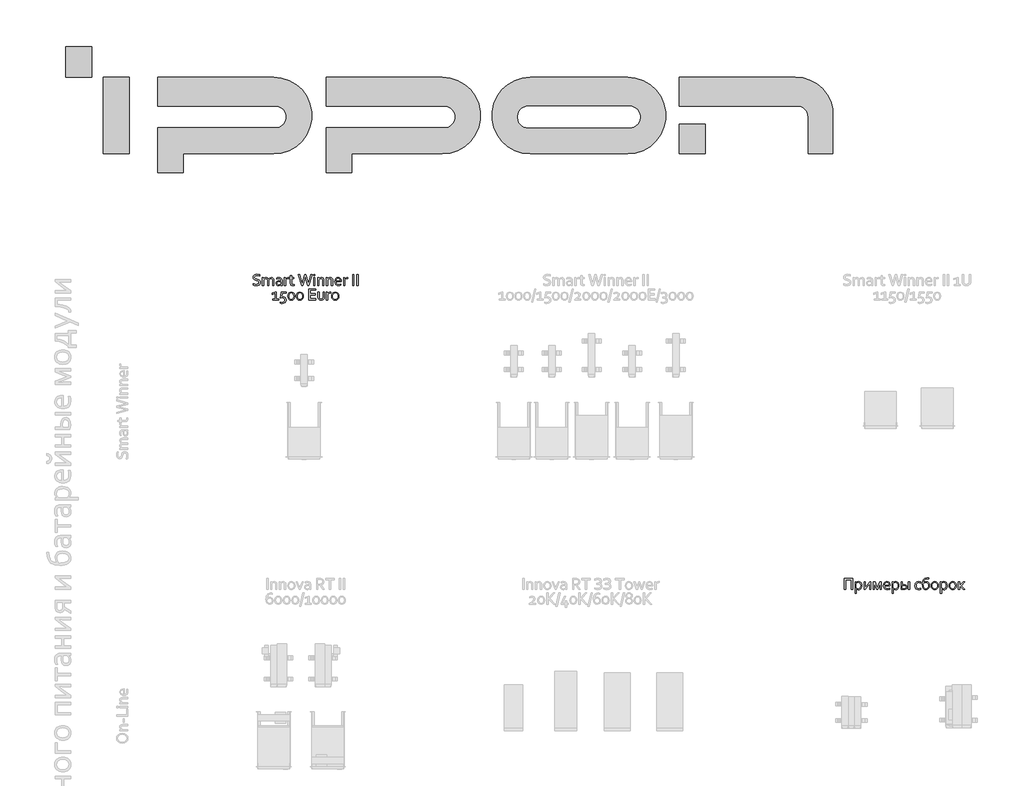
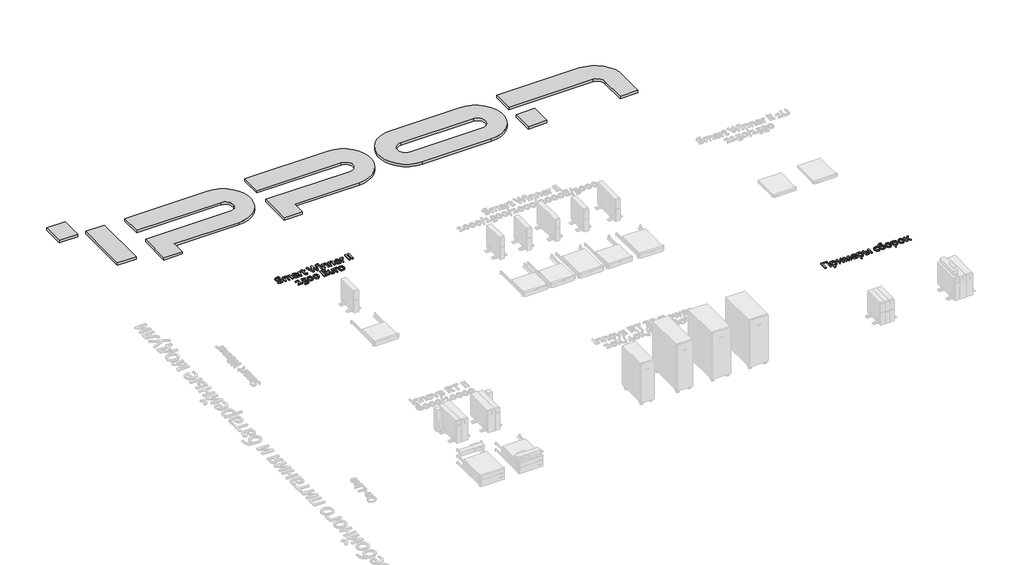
# One storey, part 8 of 10: 3 proxies.
"""IFC4 building model written with IfcOpenShell, lengths in millimetres."""

import ifcopenshell
import ifcopenshell.guid

model = None  # the IFC model being written
_history = None  # IfcOwnerHistory: only IFC2X3 demands one
_inside = {}  # id of a spatial element -> (the spatial element, [elements in it])
_under = {}  # id of a project, library or spatial element -> (it, [spatial elements below it])
_declared = {}  # id of a project -> (the project, [libraries it declares])
_typed = {}  # id of a type object -> (the type object, [elements of that type])
_made_of = {}  # id of a material, layer set ... -> (it, [elements and type objects made of it])


def new_model(schema):
    """Start an empty IFC model of exactly this schema.

    Asked for "IFC4X3", IfcOpenShell would pick the latest addendum, in which some entities
    have other attributes; the version numbers below select the first issue.
    IFC2X3 requires an IfcOwnerHistory on every rooted entity: one is made here for all.
    """
    global model, _history
    if schema == "IFC4X3":
        model = ifcopenshell.file(schema_version=(4, 3, 0, 0))
    else:
        model = ifcopenshell.file(schema=schema)
    _inside.clear()
    _under.clear()
    _declared.clear()
    _typed.clear()
    _made_of.clear()
    _history = None
    if model.schema == "IFC2X3":
        org = make("IfcOrganization", Name="unknown")
        user = make(
            "IfcPersonAndOrganization",
            ThePerson=make("IfcPerson", FamilyName="unknown"),
            TheOrganization=org,
        )
        app = make(
            "IfcApplication",
            ApplicationDeveloper=org,
            Version="unknown",
            ApplicationFullName="unknown",
            ApplicationIdentifier="unknown",
        )
        _history = make(
            "IfcOwnerHistory",
            OwningUser=user,
            OwningApplication=app,
            ChangeAction="ADDED",
            CreationDate=0,
        )
    return model


def make(cls, **values):
    """One entity of the class cls with the attributes given. An attribute that is None is left unset."""
    return model.create_entity(
        cls, **{name: value for name, value in values.items() if value is not None}
    )


def rooted(cls, **values):
    """An entity with a GlobalId (a new one), such as an element, a storey or a relation."""
    return make(cls, GlobalId=ifcopenshell.guid.new(), OwnerHistory=_history, **values)


def si_unit(unit_type, name, prefix=None):
    """IfcSIUnit, for example si_unit("LENGTHUNIT", "METRE", prefix="MILLI")."""
    return make("IfcSIUnit", UnitType=unit_type, Prefix=prefix, Name=name)


def assignment(units):
    """IfcUnitAssignment: the units of a project."""
    return None if units is None else make("IfcUnitAssignment", Units=units)


def point(xyz):
    """IfcCartesianPoint."""
    return None if xyz is None else make("IfcCartesianPoint", Coordinates=xyz)


def direction(xyz):
    """IfcDirection."""
    return None if xyz is None else make("IfcDirection", DirectionRatios=xyz)


def frame(location, z_axis=None, x_axis=None):
    """IfcAxis2Placement3D, a coordinate frame: its origin and axes. An axis left out is left unset."""
    return make(
        "IfcAxis2Placement3D",
        Location=point(location),
        Axis=direction(z_axis),
        RefDirection=direction(x_axis),
    )


def frame_2d(location, x_axis=None):
    """IfcAxis2Placement2D, a coordinate frame in the plane: its origin and x axis."""
    return make(
        "IfcAxis2Placement2D", Location=point(location), RefDirection=direction(x_axis)
    )


def origin():
    """The frame at (0, 0, 0) with its axes left unset."""
    return frame((0.0, 0.0, 0.0))


def origin_with_axes():
    """The frame at (0, 0, 0) with the z axis (0, 0, 1) and the x axis (1, 0, 0) written out."""
    return frame((0.0, 0.0, 0.0), z_axis=(0.0, 0.0, 1.0), x_axis=(1.0, 0.0, 0.0))


def place(relative_to, where):
    """IfcLocalPlacement: puts the frame where relative to a parent placement (None: the world)."""
    return make(
        "IfcLocalPlacement", PlacementRelTo=relative_to, RelativePlacement=where
    )


def context(
    kind, dimensions, precision=None, world=None, true_north=None, identifier=None
):
    """IfcGeometricRepresentationContext, for example the 3D "Model" context."""
    return make(
        "IfcGeometricRepresentationContext",
        ContextIdentifier=identifier,
        ContextType=kind,
        CoordinateSpaceDimension=dimensions,
        Precision=precision,
        WorldCoordinateSystem=world,
        TrueNorth=true_north,
    )


def project(units=None, contexts=None):
    """IfcProject with its units and contexts."""
    return rooted(
        "IfcProject",
        Name="project",
        RepresentationContexts=contexts,
        UnitsInContext=assignment(units),
    )


def spatial(cls, under=None, at=None, **own):
    """A site, building, storey or space (cls), placed at a placement, below another one or the project."""
    s = rooted(cls, ObjectPlacement=at, **own)
    if under is not None:
        _under.setdefault(under.id(), (under, []))[1].append(s)
    return s


def polyline(points):
    """IfcPolyline through the points."""
    return make("IfcPolyline", Points=[point(p) for p in points])


def circle_curve(where, radius):
    """IfcCircle in the frame where."""
    return make("IfcCircle", Position=where, Radius=radius)


def trimmed(basis, trim1, trim2, sense, master):
    """IfcTrimmedCurve: the piece of a basis curve between two trims."""
    return make(
        "IfcTrimmedCurve",
        BasisCurve=basis,
        Trim1=trim1,
        Trim2=trim2,
        SenseAgreement=sense,
        MasterRepresentation=master,
    )


def segment(curve, same_sense, transition):
    """IfcCompositeCurveSegment."""
    return make(
        "IfcCompositeCurveSegment",
        Transition=transition,
        SameSense=same_sense,
        ParentCurve=curve,
    )


def composite_curve(segments, self_intersect=None):
    """IfcCompositeCurve: segments joined end to end."""
    return make("IfcCompositeCurve", Segments=segments, SelfIntersect=self_intersect)


def outline(outer, holes=None, kind="AREA"):
    """IfcArbitraryClosedProfileDef: a profile drawn as a closed curve; with holes, ...WithVoids."""
    if holes is None:
        return make("IfcArbitraryClosedProfileDef", ProfileType=kind, OuterCurve=outer)
    return make(
        "IfcArbitraryProfileDefWithVoids",
        ProfileType=kind,
        OuterCurve=outer,
        InnerCurves=holes,
    )


def extrude(swept, where, along, depth):
    """IfcExtrudedAreaSolid: the profile swept, set in the frame where, extruded along a direction by depth."""
    return make(
        "IfcExtrudedAreaSolid",
        SweptArea=swept,
        Position=where,
        ExtrudedDirection=direction(along),
        Depth=depth,
    )


def shape(context_of_items, identifier, shape_type, items):
    """IfcShapeRepresentation: the items that make up one representation, for example the "Body"."""
    return make(
        "IfcShapeRepresentation",
        ContextOfItems=context_of_items,
        RepresentationIdentifier=identifier,
        RepresentationType=shape_type,
        Items=items,
    )


def source(mapping_origin, context_of_items, identifier, shape_type, items):
    """IfcRepresentationMap: a shape defined once, which mapped items show again and again."""
    return make(
        "IfcRepresentationMap",
        MappingOrigin=mapping_origin,
        MappedRepresentation=shape(context_of_items, identifier, shape_type, items),
    )


def transform(
    local_origin,
    x_axis=None,
    y_axis=None,
    z_axis=None,
    scale=None,
    scale2=None,
    scale3=None,
    uniform=True,
):
    """IfcCartesianTransformationOperator3D, or its non-uniform kind. x_axis, y_axis, z_axis: its Axis1, 2, 3."""
    if uniform:
        return make(
            "IfcCartesianTransformationOperator3D",
            Axis1=direction(x_axis),
            Axis2=direction(y_axis),
            LocalOrigin=point(local_origin),
            Scale=scale,
            Axis3=direction(z_axis),
        )
    return make(
        "IfcCartesianTransformationOperator3DnonUniform",
        Axis1=direction(x_axis),
        Axis2=direction(y_axis),
        LocalOrigin=point(local_origin),
        Scale=scale,
        Axis3=direction(z_axis),
        Scale2=scale2,
        Scale3=scale3,
    )


def mapped(mapping_source, mapping_target):
    """IfcMappedItem: shows the shape of a source again, moved by a transform."""
    return make(
        "IfcMappedItem", MappingSource=mapping_source, MappingTarget=mapping_target
    )


def made_of(thing, what):
    """Note that an element or type object is made of a material, layer set ...; save() writes the relation."""
    if what is not None:
        _made_of.setdefault(what.id(), (what, []))[1].append(thing)
    return thing


def element(
    cls,
    number,
    at=None,
    inside=None,
    cuts=None,
    type_object=None,
    material=None,
    context=None,
    identifier="Body",
    shape_type=None,
    held_by="IfcProductDefinitionShape",
    body=None,
    shapes=None,
    **own,
):
    """One element of the class cls, such as IfcWall. Its Tag is "e" and its number.

    at: its placement. inside: the storey or other place that contains it. cuts: it is an
    opening in that element (IfcRelVoidsElement). A single representation is given by context,
    identifier, shape_type and body (its items); several are given by shapes. held_by: the class
    of the entity that holds the representations. save() writes the other relations.
    """
    e = rooted(cls, Tag="e%d" % number, ObjectPlacement=at, **own)
    if body is not None:
        shapes = [shape(context, identifier, shape_type, body)]
    if shapes is not None:
        e.Representation = make(held_by, Representations=shapes)
    if inside is not None:
        _inside.setdefault(inside.id(), (inside, []))[1].append(e)
    if cuts is not None:
        rooted(
            "IfcRelVoidsElement", RelatingBuildingElement=cuts, RelatedOpeningElement=e
        )
    if type_object is not None:
        _typed.setdefault(type_object.id(), (type_object, []))[1].append(e)
    return made_of(e, material)


def aggregate(whole, parts):
    """IfcRelAggregates: a whole, such as a stair, and the parts it consists of."""
    return rooted("IfcRelAggregates", RelatingObject=whole, RelatedObjects=parts)


def save(model, path):
    """Write the relations noted so far, then the file.

    IfcRelAggregates (storeys below a building ...), IfcRelContainedInSpatialStructure (elements
    in a storey), IfcRelDefinesByType, IfcRelAssociatesMaterial and IfcRelDeclares: one each for
    every whole, place, type object, material and project.
    """
    for whole, parts in _under.values():
        aggregate(whole, parts)
    for where, things in _inside.values():
        rooted(
            "IfcRelContainedInSpatialStructure",
            RelatedElements=things,
            RelatingStructure=where,
        )
    for kind, things in _typed.values():
        rooted("IfcRelDefinesByType", RelatedObjects=things, RelatingType=kind)
    for what, things in _made_of.values():
        rooted("IfcRelAssociatesMaterial", RelatedObjects=things, RelatingMaterial=what)
    for by, libraries in _declared.values():
        rooted("IfcRelDeclares", RelatingContext=by, RelatedDefinitions=libraries)
    model.write(path)


def generic_models_99963152(model_context):
    return source(origin(), model_context, "Body", "SweptSolid", [
        extrude(outline(polyline([(3177.699448, 3681.8024314), (3177.699448, 4101.8024314), (3535.699448, 4101.8024314), (3535.699448, 3681.8024314), (3177.699448, 3681.8024314)])), origin_with_axes(), (0.0, 0.0, 1.0), 50.0),
        extrude(outline(polyline([(11584.1684454, 2635.683186), (11584.1684454, 3035.683186), (11942.1684454, 3035.683186), (11942.1684454, 2635.683186), (11584.1684454, 2635.683186)])), origin_with_axes(), (0.0, 0.0, 1.0), 50.0),
        extrude(outline(polyline([(4048.1413841, 3681.8024314), (4048.1413841, 2631.2925972), (3690.1333405, 2631.2925972), (3690.1333405, 3681.8024314), (4048.1413841, 3681.8024314)])), origin_with_axes(), (0.0, 0.0, 1.0), 50.0),
        extrude(outline(composite_curve([segment(polyline([(4435.8590315, 3285.683186), (4435.8590315, 3681.8024314), (6024.8439739, 3681.8024314)]), True, "CONTINUOUS"), segment(trimmed(circle_curve(frame_2d((6024.8439739, 3156.5475143)), 525.2549171), [point((6024.8439739, 3681.8024314))], [point((6024.8439739, 2631.2925972))], False, "CARTESIAN"), True, "CONTINUOUS"), segment(polyline([(6024.8439739, 2631.2925972), (4786.0289762, 2631.2925972), (4786.0289762, 2374.6349736), (4435.8590315, 2374.6349736), (4435.8590315, 2985.7698761), (6052.2010008, 2985.7698761)]), True, "CONTINUOUS"), segment(trimmed(circle_curve(frame_2d((6052.2010008, 3135.726531)), 149.9566549), [point((6052.2010008, 2985.7698761))], [point((6052.2010008, 3285.683186))], True, "CARTESIAN"), True, "CONTINUOUS"), segment(polyline([(6052.2010008, 3285.683186), (4435.8590315, 3285.683186)]), True, "CONTINUOUS")], self_intersect=False)), origin_with_axes(), (0.0, 0.0, 1.0), 50.0),
        extrude(outline(composite_curve([segment(polyline([(6748.2065684, 3285.683186), (6748.2065684, 3681.8024314), (8337.1915108, 3681.8024314)]), True, "CONTINUOUS"), segment(trimmed(circle_curve(frame_2d((8337.1915108, 3156.5475143)), 525.2549171), [point((8337.1915108, 3681.8024314))], [point((8337.1915108, 2631.2925972))], False, "CARTESIAN"), True, "CONTINUOUS"), segment(polyline([(8337.1915108, 2631.2925972), (7098.3765132, 2631.2925972), (7098.3765132, 2374.6349736), (6748.2065684, 2374.6349736), (6748.2065684, 2985.7698761), (8364.5485377, 2985.7698761)]), True, "CONTINUOUS"), segment(trimmed(circle_curve(frame_2d((8364.5485377, 3135.726531)), 149.9566549), [point((8364.5485377, 2985.7698761))], [point((8364.5485377, 3285.683186))], True, "CARTESIAN"), True, "CONTINUOUS"), segment(polyline([(8364.5485377, 3285.683186), (6748.2065684, 3285.683186)]), True, "CONTINUOUS")], self_intersect=False)), origin_with_axes(), (0.0, 0.0, 1.0), 50.0),
        extrude(outline(composite_curve([segment(polyline([(10875.9689341, 2631.2925972), (9545.3231442, 2631.2925972)]), True, "CONTINUOUS"), segment(trimmed(circle_curve(frame_2d((9545.3231442, 3156.5475143)), 525.2549171), [point((9545.3231442, 2631.2925972))], [point((9545.3231442, 3681.8024314))], False, "CARTESIAN"), True, "CONTINUOUS"), segment(polyline([(9545.3231442, 3681.8024314), (10875.9689341, 3681.8024314)]), True, "CONTINUOUS"), segment(trimmed(circle_curve(frame_2d((10875.9689341, 3156.5475143)), 525.2549171), [point((10875.9689341, 3681.8024314))], [point((10875.9689341, 2631.2925972))], False, "CARTESIAN"), True, "CONTINUOUS")], self_intersect=False), holes=[composite_curve([segment(trimmed(circle_curve(frame_2d((10903.325961, 3135.726531)), 149.9566549), [point((10903.325961, 2985.7698761))], [point((10903.325961, 3285.683186))], True, "CARTESIAN"), True, "CONTINUOUS"), segment(polyline([(10903.325961, 3285.683186), (9517.9661172, 3285.683186)]), True, "CONTINUOUS"), segment(trimmed(circle_curve(frame_2d((9517.9661172, 3135.726531)), 149.9566549), [point((9517.9661172, 3285.683186))], [point((9517.9661172, 2985.7698761))], True, "CARTESIAN"), True, "CONTINUOUS"), segment(polyline([(9517.9661172, 2985.7698761), (10903.325961, 2985.7698761)]), True, "CONTINUOUS")], self_intersect=False)]), origin_with_axes(), (0.0, 0.0, 1.0), 50.0),
        extrude(outline(composite_curve([segment(polyline([(11584.1684454, 3285.683186), (11584.1684454, 3681.8024314), (13173.1533878, 3681.8024314)]), True, "CONTINUOUS"), segment(trimmed(circle_curve(frame_2d((13173.1533878, 3156.5475143)), 525.2549171), [point((13173.1533878, 3681.8024314))], [point((13690.1333405, 3249.4154658))], False, "CARTESIAN"), True, "CONTINUOUS"), segment(polyline([(13690.1333405, 3249.4154658), (13690.1333405, 2631.2925972), (13350.4670696, 2631.2925972), (13350.4670696, 3135.726531)]), True, "CONTINUOUS"), segment(trimmed(circle_curve(frame_2d((13200.5104147, 3135.726531)), 149.9566549), [point((13350.4670696, 3135.726531))], [point((13200.5104147, 3285.683186))], True, "CARTESIAN"), True, "CONTINUOUS"), segment(polyline([(13200.5104147, 3285.683186), (11584.1684454, 3285.683186)]), True, "CONTINUOUS")], self_intersect=False)), origin_with_axes(), (0.0, 0.0, 1.0), 50.0),
    ])


model = new_model("IFC4")

# Units and contexts
model_context = context("Model", 3, world=origin())
ifc_project = project(units=[si_unit("LENGTHUNIT", "METRE", prefix="MILLI")], contexts=[model_context])

# Site, building, storey
site = spatial("IfcSite", under=ifc_project)
building = spatial("IfcBuilding", under=site)
storey = spatial("IfcBuildingStorey", under=building, Name="Этаж 01", Elevation=0.0)

# Proxies
placement = place(None, origin())
element("IfcBuildingElementProxy", 1, Name="150 мм Corbel", ObjectType="150 мм Corbel", at=placement, inside=storey, context=model_context, shape_type="SweptSolid", body=[
    extrude(outline(polyline([(4263.4945132, 936.8855088), (4266.2289116, 925.8822898), (4273.5570992, 918.7072285), (4284.2321904, 914.0696889), (4296.9197988, 910.6790349), (4314.3980731, 905.9321193), (4329.6888288, 898.757058), (4340.5389215, 886.8350812), (4344.695207, 867.9786701), (4340.2107937, 847.722247), (4327.8294379, 833.7002522), (4309.2792794, 825.5626827), (4285.938455, 822.9157851), (4274.0164781, 823.6376662), (4262.3570035, 825.5845579), (4252.3162927, 828.3845818), (4245.2506073, 831.4908583), (4245.2506073, 848.1160004), (4254.3288099, 844.681596), (4264.763274, 842.0346984), (4275.6352419, 840.3284338), (4285.938455, 839.7159286), (4300.922958, 841.050315), (4313.4136897, 845.5128531), (4321.9450126, 854.0223008), (4325.0950395, 867.5411663), (4322.2950156, 878.7193868), (4314.8355769, 886.0038241), (4304.0729849, 890.6851141), (4291.2322502, 894.0976432), (4273.8196014, 898.6476821), (4258.6600969, 905.7133675), (4247.9412553, 917.3509669), (4243.8943457, 935.5292472), (4248.138132, 955.3481665), (4259.6226051, 969.0857839), (4276.1821216, 977.1139775), (4296.0447913, 979.7171247), (4318.4012323, 977.4202301), (4337.3888945, 971.4483041), (4337.3888945, 954.5169094), (4318.1606053, 960.5107106), (4296.9197988, 962.9169812), (4282.1102973, 961.0794655), (4271.6977083, 955.8512958), (4265.5289056, 947.6262256), (4263.4945132, 936.8855088)])), origin_with_axes(), (0.0, 0.0, 1.0), 20.0),
    extrude(outline(polyline([(4459.4961878, 825.715809), (4442.6960443, 825.715809), (4442.6960443, 894.7976492), (4441.1647812, 906.7196261), (4436.7022431, 914.8134452), (4429.7240584, 919.4509848), (4420.6458559, 920.9166224), (4403.4300838, 915.6884527), (4389.4955897, 901.3164549), (4389.4955897, 825.715809), (4372.6954462, 825.715809), (4372.6954462, 932.116718), (4386.126811, 932.116718), (4389.4518394, 917.3290917), (4396.1456466, 924.1979004), (4403.7363364, 929.8198234), (4412.9457901, 933.5823556), (4423.9271339, 934.916742), (4434.7772266, 933.489386), (4443.6148021, 929.2073182), (4455.6899053, 913.6540603), (4472.3806729, 929.2729438), (4493.6652297, 934.916742), (4505.6090818, 933.3417285), (4517.2029308, 927.5666792), (4525.996756, 915.9728301), (4529.4967859, 896.9414175), (4529.4967859, 825.715809), (4512.6966423, 825.715809), (4512.6966423, 894.7976492), (4511.1653793, 906.7196261), (4506.7247163, 914.8134452), (4499.7684069, 919.4509848), (4490.6902043, 920.9166224), (4473.4525571, 915.6884527), (4459.4961878, 901.3164549), (4459.4961878, 825.715809)])), origin_with_axes(), (0.0, 0.0, 1.0), 20.0),
    extrude(outline(polyline([(4625.2226037, 837.4846595), (4619.4256792, 832.1689891), (4612.0099909, 827.4439487), (4602.8224124, 824.1407955), (4592.1910715, 822.9157851), (4578.1690767, 825.1689293), (4567.2096081, 831.7971109), (4560.056422, 842.450327), (4557.4970251, 856.6910736), (4560.3407994, 870.6911932), (4568.3033674, 881.1694078), (4580.6190977, 887.7975894), (4596.5223585, 890.1163592), (4611.7693638, 888.6288465), (4624.2600955, 885.2600677), (4624.6975993, 892.8726328), (4624.1288444, 901.207079), (4622.203828, 907.5727583), (4612.9287487, 917.132215), (4595.6473511, 920.9166224), (4580.4440962, 919.4291096), (4566.2908502, 915.3165745), (4566.2908502, 929.0104415), (4572.6127793, 931.3948369), (4580.2909699, 933.2979781), (4588.8004176, 934.5011134), (4597.7911194, 934.916742), (4612.4256194, 933.489386), (4624.0413437, 929.2073182), (4632.7039177, 922.5736678), (4638.478967, 914.091564), (4640.7977368, 906.1946216), (4641.4977428, 896.7226656), (4641.4977428, 825.715809), (4627.1038698, 825.715809), (4625.2226037, 837.4846595)]), holes=[polyline([(4624.6975993, 872.1349556), (4613.081875, 874.7381028), (4598.3161239, 876.1162396), (4580.662848, 871.3474488), (4575.8885885, 865.2989597), (4574.2971686, 856.6910736), (4575.8940573, 847.9409989), (4580.2690947, 841.750321), (4586.8535259, 838.1190399), (4594.9910955, 836.9159047), (4605.5786859, 838.5565437), (4614.2850103, 842.4722021), (4620.7600656, 847.022241), (4624.6975993, 850.5660213), (4624.6975993, 872.1349556)])]), origin_with_axes(), (0.0, 0.0, 1.0), 20.0),
    extrude(outline(polyline([(4732.8922737, 920.9166224), (4719.4609089, 919.7572375), (4708.3045636, 916.2353324), (4698.8982332, 910.3946575), (4691.8981734, 902.1914624), (4691.8981734, 825.715809), (4675.0980299, 825.715809), (4675.0980299, 932.116718), (4688.0918909, 932.116718), (4691.3294186, 915.1853234), (4697.9794754, 922.9291396), (4706.4451727, 929.2073182), (4716.7702609, 933.4073541), (4728.5609867, 934.916742), (4730.8360061, 934.8729916), (4732.8922737, 934.7417405), (4732.8922737, 920.9166224)])), origin_with_axes(), (0.0, 0.0, 1.0), 20.0),
    extrude(outline(polyline([(4806.4804024, 825.3220556), (4799.6553441, 823.7470422), (4788.6740002, 822.9157851), (4774.1926265, 825.015803), (4764.1519157, 831.0096042), (4758.2456153, 840.4378098), (4756.2987236, 852.75354), (4756.2987236, 918.1165984), (4735.7797983, 918.1165984), (4735.7797983, 932.116718), (4756.2987236, 932.116718), (4756.2987236, 960.1169573), (4773.0988672, 960.1169573), (4773.0988672, 932.116718), (4804.9053889, 932.116718), (4804.9053889, 918.1165984), (4773.0988672, 918.1165984), (4773.0988672, 854.5035549), (4774.1488761, 847.4816199), (4777.4957797, 841.9034473), (4783.380205, 838.2284159), (4792.042779, 836.9159047), (4799.3709666, 837.4846595), (4806.4804024, 838.9284219), (4806.4804024, 825.3220556)])), origin_with_axes(), (0.0, 0.0, 1.0), 20.0),
    extrude(outline(polyline([(4959.2567077, 951.9356374), (4950.5941337, 915.5353264), (4927.1439333, 825.715809), (4908.4187733, 825.715809), (4862.6996327, 976.9171008), (4882.2998002, 976.9171008), (4906.975011, 888.1913428), (4916.9938466, 849.7785146), (4922.2657666, 870.2318143), (4926.8814311, 887.9725909), (4949.5003743, 976.9171008), (4969.1005418, 976.9171008), (4991.1507302, 887.9725909), (5000.3383087, 849.7785146), (5011.0571503, 888.1913428), (5036.3011159, 976.9171008), (5055.9012834, 976.9171008), (5009.4821368, 825.715809), (4990.7569768, 825.715809), (4967.7880306, 915.5353264), (4959.2567077, 951.9356374)])), origin_with_axes(), (0.0, 0.0, 1.0), 20.0),
    extrude(outline(polyline([(5075.5014509, 957.3169334), (5075.5014509, 976.9171008), (5092.3015944, 976.9171008), (5092.3015944, 957.3169334), (5075.5014509, 957.3169334)])), origin_with_axes(), (0.0, 0.0, 1.0), 20.0),
    extrude(outline(polyline([(5075.5014509, 825.715809), (5075.5014509, 932.116718), (5092.3015944, 932.116718), (5092.3015944, 825.715809), (5075.5014509, 825.715809)])), origin_with_axes(), (0.0, 0.0, 1.0), 20.0),
    extrude(outline(polyline([(5145.4145482, 917.3290917), (5152.1302306, 924.1979004), (5159.9834227, 929.8198234), (5169.499129, 933.5823556), (5180.7648502, 934.916742), (5194.3712165, 932.9042248), (5205.3744355, 926.4072943), (5212.7682486, 914.7040693), (5215.502647, 896.9414175), (5215.502647, 825.715809), (5198.7025035, 825.715809), (5198.7025035, 894.7976492), (5197.3571795, 906.7579076), (5193.3212075, 914.8134452), (5186.714901, 919.3908281), (5177.6585737, 920.9166224), (5160.1146738, 915.6884527), (5145.5020489, 901.3164549), (5145.5020489, 825.715809), (5128.7019054, 825.715809), (5128.7019054, 932.116718), (5142.0457694, 932.116718), (5145.4145482, 917.3290917)])), origin_with_axes(), (0.0, 0.0, 1.0), 20.0),
    extrude(outline(polyline([(5265.8155769, 917.3290917), (5272.5312592, 924.1979004), (5280.3844513, 929.8198234), (5289.9001576, 933.5823556), (5301.1658789, 934.916742), (5314.7722451, 932.9042248), (5325.7754641, 926.4072943), (5333.1692773, 914.7040693), (5335.9036757, 896.9414175), (5335.9036757, 825.715809), (5319.1035321, 825.715809), (5319.1035321, 894.7976492), (5317.7582082, 906.7579076), (5313.7222362, 914.8134452), (5307.1159297, 919.3908281), (5298.0596023, 920.9166224), (5280.5157025, 915.6884527), (5265.9030776, 901.3164549), (5265.9030776, 825.715809), (5249.1029341, 825.715809), (5249.1029341, 932.116718), (5262.4467981, 932.116718), (5265.8155769, 917.3290917)])), origin_with_axes(), (0.0, 0.0, 1.0), 20.0),
    extrude(outline(polyline([(5419.2481378, 836.9159047), (5435.0201475, 838.3815422), (5449.2171438, 842.5159525), (5449.2171438, 828.6908344), (5435.0857731, 824.4689233), (5417.0168687, 822.9157851), (5395.5573104, 825.8251849), (5378.5384149, 835.2315153), (5367.7320726, 852.2066603), (5363.9039149, 877.4725012), (5367.8851989, 902.7164669), (5378.4727894, 920.5666194), (5393.6979195, 931.3292113), (5411.6793231, 934.916742), (5428.173214, 931.9854669), (5441.4733277, 922.7541381), (5450.3765287, 906.5008742), (5453.6359316, 882.6350453), (5453.6359316, 880.381901), (5453.5046804, 876.1162396), (5379.7853006, 876.1162396), (5382.869702, 857.9160841), (5391.2916489, 845.7972306), (5403.8042558, 839.0377978), (5419.2481378, 836.9159047)]), holes=[polyline([(5410.9355667, 920.9166224), (5399.4292184, 918.4884766), (5390.1541392, 911.8821702), (5383.7228342, 902.1039616), (5380.7040584, 890.1163592), (5436.7045369, 890.1163592), (5435.0201475, 902.2133376), (5430.0544801, 911.9915461), (5422.0044113, 918.532227), (5410.9355667, 920.9166224)])]), origin_with_axes(), (0.0, 0.0, 1.0), 20.0),
    extrude(outline(polyline([(5542.0991874, 920.9166224), (5528.6678226, 919.7572375), (5517.5114773, 916.2353324), (5508.1051469, 910.3946575), (5501.1050871, 902.1914624), (5501.1050871, 825.715809), (5484.3049436, 825.715809), (5484.3049436, 932.116718), (5497.2988046, 932.116718), (5500.5363323, 915.1853234), (5507.1863891, 922.9291396), (5515.6520864, 929.2073182), (5525.9771746, 933.4073541), (5537.7679004, 934.916742), (5540.0429198, 934.8729916), (5542.0991874, 934.7417405), (5542.0991874, 920.9166224)])), origin_with_axes(), (0.0, 0.0, 1.0), 20.0),
    extrude(outline(polyline([(5607.5059962, 825.715809), (5607.5059962, 976.9171008), (5627.1061637, 976.9171008), (5627.1061637, 825.715809), (5607.5059962, 825.715809)])), origin_with_axes(), (0.0, 0.0, 1.0), 20.0),
    extrude(outline(polyline([(5663.5064747, 825.715809), (5663.5064747, 976.9171008), (5683.1066421, 976.9171008), (5683.1066421, 825.715809), (5663.5064747, 825.715809)])), origin_with_axes(), (0.0, 0.0, 1.0), 20.0),
    extrude(outline(polyline([(4547.6969414, 639.315498), (4547.6969414, 717.7161678), (4507.2278456, 703.7160482), (4507.2278456, 717.7161678), (4549.9719608, 731.7162874), (4564.4970849, 731.7162874), (4564.4970849, 639.315498), (4593.8535857, 639.315498), (4593.8535857, 625.3153784), (4511.9091356, 625.3153784), (4511.9091356, 639.315498), (4547.6969414, 639.315498)])), origin_with_axes(), (0.0, 0.0, 1.0), 20.0),
    extrude(outline(polyline([(4698.8982332, 625.4466295), (4695.4200785, 606.3933417), (4685.2262414, 591.2775876), (4668.2948467, 581.3025023), (4645.0852735, 577.7149717), (4628.8320096, 579.2024844), (4614.9412659, 583.7525233), (4614.9412659, 597.3151391), (4630.6257749, 592.8744762), (4644.2977667, 591.7150913), (4660.9010336, 594.3401137), (4672.6698841, 601.4932998), (4679.7355695, 612.0371399), (4682.0980897, 624.6591228), (4679.6043184, 638.5936168), (4671.7948767, 648.3718254), (4658.14476, 654.1906251), (4638.0414633, 656.1156415), (4618.2662943, 654.9781318), (4628.8976351, 731.7162874), (4699.9482422, 731.7162874), (4699.9482422, 717.7161678), (4645.6977787, 717.7161678), (4639.4414752, 669.8970093), (4645.6977787, 670.1157611), (4668.4479731, 667.0969853), (4685.1387407, 658.3687858), (4695.3982033, 644.3686662), (4698.8982332, 625.4466295)])), origin_with_axes(), (0.0, 0.0, 1.0), 20.0),
    extrude(outline(polyline([(4816.499238, 678.3845818), (4813.2835855, 656.290643), (4803.9428807, 638.5498664), (4789.0458784, 626.7810159), (4768.986332, 622.5153544), (4748.5330323, 626.7810159), (4733.5704045, 638.5498664), (4724.4047011, 656.290643), (4721.2984246, 678.3845818), (4724.5140771, 700.6316469), (4733.8547819, 718.438049), (4748.8174097, 730.2506499), (4768.8988313, 734.5163114), (4789.2646303, 730.2506499), (4804.2272581, 718.438049), (4813.3929614, 700.6316469), (4816.499238, 678.3845818)]), holes=[polyline([(4799.6990944, 678.3845818), (4797.5115758, 696.0378576), (4791.3208979, 709.2723457), (4781.6520653, 717.6067919), (4768.8988313, 720.5161917), (4756.1455973, 717.6067919), (4746.4330143, 709.2723457), (4740.2423365, 696.0378576), (4738.0985681, 678.3845818), (4740.2860868, 660.8844323), (4746.4767647, 647.6936946), (4756.2112229, 639.4248739), (4769.0300824, 636.5154741), (4781.7614412, 639.4248739), (4791.4302738, 647.6936946), (4797.5553261, 660.8844323), (4799.6990944, 678.3845818)])]), origin_with_axes(), (0.0, 0.0, 1.0), 20.0),
    extrude(outline(polyline([(4934.1002427, 678.3845818), (4930.8845903, 656.290643), (4921.5438855, 638.5498664), (4906.6468832, 626.7810159), (4886.5873368, 622.5153544), (4866.1340371, 626.7810159), (4851.1714092, 638.5498664), (4842.0057059, 656.290643), (4838.8994294, 678.3845818), (4842.1150818, 700.6316469), (4851.4557866, 718.438049), (4866.4184145, 730.2506499), (4886.4998361, 734.5163114), (4906.8656351, 730.2506499), (4921.8282629, 718.438049), (4930.9939662, 700.6316469), (4934.1002427, 678.3845818)]), holes=[polyline([(4917.3000992, 678.3845818), (4915.1125805, 696.0378576), (4908.9219026, 709.2723457), (4899.25307, 717.6067919), (4886.4998361, 720.5161917), (4873.7466021, 717.6067919), (4864.0340191, 709.2723457), (4857.8433412, 696.0378576), (4855.6995729, 678.3845818), (4857.8870916, 660.8844323), (4864.0777695, 647.6936946), (4873.8122277, 639.4248739), (4886.6310872, 636.5154741), (4899.362446, 639.4248739), (4909.0312786, 647.6936946), (4915.1563309, 660.8844323), (4917.3000992, 678.3845818)])]), origin_with_axes(), (0.0, 0.0, 1.0), 20.0),
    extrude(outline(polyline([(5029.3010561, 642.1155219), (5106.2142133, 642.1155219), (5106.2142133, 625.3153784), (5009.7008887, 625.3153784), (5009.7008887, 776.5166702), (5102.0579277, 776.5166702), (5102.0579277, 759.7165267), (5029.3010561, 759.7165267), (5029.3010561, 712.11612), (5094.007859, 712.11612), (5094.007859, 695.3159764), (5029.3010561, 695.3159764), (5029.3010561, 642.1155219)])), origin_with_axes(), (0.0, 0.0, 1.0), 20.0),
    extrude(outline(polyline([(5175.9523091, 622.5153544), (5161.1646827, 624.3091198), (5149.6583344, 629.3404128), (5141.2582627, 637.1279793), (5135.7894659, 647.0593141), (5133.5800721, 655.8968896), (5132.9019413, 666.4407297), (5132.9019413, 731.7162874), (5149.7020848, 731.7162874), (5149.7020848, 666.003226), (5152.064605, 651.0843485), (5160.8365549, 640.4092573), (5176.3023121, 636.5154741), (5192.3368241, 640.8030107), (5200.9775229, 652.309359), (5202.9025393, 666.003226), (5202.9025393, 731.7162874), (5219.7026829, 731.7162874), (5219.7026829, 666.3094786), (5219.0901776, 656.290643), (5217.1214108, 647.7155697), (5211.6307389, 637.5873582), (5202.9900401, 629.5591646), (5191.155564, 624.3528701), (5175.9523091, 622.5153544)])), origin_with_axes(), (0.0, 0.0, 1.0), 20.0),
    extrude(outline(polyline([(5308.2971898, 720.5161917), (5294.8658251, 719.3568068), (5283.7094797, 715.8349017), (5274.3031494, 709.9942268), (5267.3030896, 701.7910318), (5267.3030896, 625.3153784), (5250.502946, 625.3153784), (5250.502946, 731.7162874), (5263.4968071, 731.7162874), (5266.7343347, 714.7848928), (5273.3843915, 722.5287089), (5281.8500889, 728.8068876), (5292.1751771, 733.0069235), (5303.9659028, 734.5163114), (5306.2409222, 734.472561), (5308.2971898, 734.3413099), (5308.2971898, 720.5161917)])), origin_with_axes(), (0.0, 0.0, 1.0), 20.0),
    extrude(outline(polyline([(5421.3044053, 678.3845818), (5417.7387499, 655.5687618), (5407.6324135, 637.915486), (5391.8166534, 626.5403888), (5371.0352258, 622.5153544), (5349.8381697, 626.5403888), (5333.956784, 637.915486), (5323.9598236, 655.5687618), (5320.5035441, 678.3845818), (5324.0691996, 701.3754032), (5334.1755359, 719.0724294), (5350.0569216, 730.491277), (5370.9039747, 734.5163114), (5392.0135301, 730.491277), (5407.8949158, 719.0724294), (5417.8481258, 701.3754032), (5421.3044053, 678.3845818)]), holes=[polyline([(5404.5042618, 678.3845818), (5402.0104905, 696.2566095), (5395.0323059, 709.4910975), (5384.3790898, 717.7161678), (5370.9039747, 720.5161917), (5357.4288596, 717.7161678), (5346.7756436, 709.4910975), (5339.7974589, 696.2566095), (5337.3036876, 678.3845818), (5339.7974589, 660.6438052), (5346.8412691, 647.4749427), (5357.5382355, 639.315498), (5371.0352258, 636.5154741), (5384.4447154, 639.315498), (5395.0323059, 647.4749427), (5402.0104905, 660.6438052), (5404.5042618, 678.3845818)])]), origin_with_axes(), (0.0, 0.0, 1.0), 20.0),
])
element("IfcBuildingElementProxy", 2, Name="150 мм Corbel", ObjectType="150 мм Corbel", at=placement, inside=storey, context=model_context, shape_type="SweptSolid", body=[
    extrude(outline(polyline([(12460.6944893, -3193.2852077), (12460.6944893, -3344.4864996), (12441.0943218, -3344.4864996), (12441.0943218, -3210.0853513), (12365.4936759, -3210.0853513), (12365.4936759, -3344.4864996), (12345.8935084, -3344.4864996), (12345.8935084, -3193.2852077), (12460.6944893, -3193.2852077)])), origin_with_axes(), (0.0, 0.0, 1.0), 20.0),
    extrude(outline(polyline([(12586.6955658, -3290.0610346), (12584.5299223, -3309.7049524), (12578.8423737, -3324.6675803), (12570.5735531, -3335.3645466), (12560.729719, -3342.2989809), (12550.3827556, -3346.1052634), (12540.4951711, -3347.2865235), (12523.8044035, -3344.0927462), (12511.0949199, -3334.6426655), (12510.7886673, -3397.6869541), (12494.2947764, -3397.6869541), (12494.2947764, -3238.0855905), (12507.1136359, -3238.0855905), (12510.7449169, -3250.1606937), (12514.7480761, -3245.8075315), (12520.7856277, -3241.2793678), (12529.9075806, -3237.0793319), (12541.5014297, -3235.2855666), (12558.4328243, -3238.3043424), (12572.8704477, -3247.9294246), (12582.9111585, -3264.9045696), (12586.6955658, -3290.0610346)]), holes=[polyline([(12569.8954223, -3290.1922857), (12567.9266555, -3273.1733903), (12562.020355, -3260.3326556), (12552.3296472, -3252.1513357), (12539.0514088, -3249.2856862), (12529.1856995, -3250.8388245), (12521.1356307, -3254.7544829), (12514.9449528, -3259.8514015), (12510.7886673, -3264.7295682), (12510.7886673, -3320.423794), (12523.3450246, -3329.8301244), (12538.4826539, -3333.2864039), (12548.9389932, -3331.4051378), (12559.1328303, -3324.6675803), (12566.8547713, -3311.4549674), (12569.8954223, -3290.1922857)])]), origin_with_axes(), (0.0, 0.0, 1.0), 20.0),
    extrude(outline(polyline([(12632.9397109, -3344.4864996), (12617.495829, -3344.4864996), (12617.495829, -3238.0855905), (12634.2959725, -3238.0855905), (12634.2959725, -3296.4485892), (12633.7272176, -3319.5050361), (12641.9085375, -3307.8455615), (12651.796122, -3294.3048208), (12694.4527365, -3238.0855905), (12709.8966184, -3238.0855905), (12709.8966184, -3344.4864996), (12693.0964749, -3344.4864996), (12693.0964749, -3286.1235009), (12693.6652297, -3263.0670539), (12685.4401595, -3274.7265286), (12675.5088246, -3288.2672693), (12632.9397109, -3344.4864996)])), origin_with_axes(), (0.0, 0.0, 1.0), 20.0),
    extrude(outline(polyline([(12794.466091, -3344.4864996), (12773.9471657, -3293.5173141), (12760.5158009, -3259.2607714), (12760.297049, -3293.2110615), (12760.297049, -3344.4864996), (12743.4969055, -3344.4864996), (12743.4969055, -3238.0855905), (12768.0408652, -3238.0855905), (12787.0722778, -3286.4735039), (12799.0598802, -3318.4987775), (12811.8349894, -3286.4735039), (12830.9539027, -3238.0855905), (12855.4978624, -3238.0855905), (12855.4978624, -3344.4864996), (12838.6977189, -3344.4864996), (12838.6977189, -3293.2110615), (12839.4852256, -3259.2607714), (12825.0476023, -3293.5173141), (12804.5286769, -3344.4864996), (12794.466091, -3344.4864996)])), origin_with_axes(), (0.0, 0.0, 1.0), 20.0),
    extrude(outline(polyline([(12938.8423245, -3333.2864039), (12954.6143342, -3331.8207664), (12968.8113305, -3327.686356), (12968.8113305, -3341.5114742), (12954.6799598, -3345.7333852), (12936.6110554, -3347.2865235), (12915.1514971, -3344.3771236), (12898.1326017, -3334.9707933), (12887.3262594, -3317.9956482), (12883.4981016, -3292.7298074), (12887.4793857, -3267.4858417), (12898.0669761, -3249.6356892), (12913.2921062, -3238.8730972), (12931.2735098, -3235.2855666), (12947.7674007, -3238.2168416), (12961.0675144, -3247.4481705), (12969.9707155, -3263.7014344), (12973.2301183, -3287.5672633), (12973.2301183, -3289.8204075), (12973.0988672, -3294.086069), (12899.3794873, -3294.086069), (12902.4638887, -3312.2862245), (12910.8858356, -3324.405078), (12923.3984425, -3331.1645108), (12938.8423245, -3333.2864039)]), holes=[polyline([(12930.5297535, -3249.2856862), (12919.0234052, -3251.7138319), (12909.7483259, -3258.3201384), (12903.317021, -3268.0983469), (12900.2982452, -3280.0859494), (12956.2987236, -3280.0859494), (12954.6143342, -3267.988971), (12949.6486668, -3258.2107625), (12941.598598, -3251.6700816), (12930.5297535, -3249.2856862)])]), origin_with_axes(), (0.0, 0.0, 1.0), 20.0),
    extrude(outline(polyline([(13096.2999198, -3290.0610346), (13094.1342763, -3309.7049524), (13088.4467277, -3324.6675803), (13080.177907, -3335.3645466), (13070.3340729, -3342.2989809), (13059.9871095, -3346.1052634), (13050.0995251, -3347.2865235), (13033.4087575, -3344.0927462), (13020.6992739, -3334.6426655), (13020.3930212, -3397.6869541), (13003.8991303, -3397.6869541), (13003.8991303, -3238.0855905), (13016.7179899, -3238.0855905), (13020.3492709, -3250.1606937), (13024.3524301, -3245.8075315), (13030.3899817, -3241.2793678), (13039.5119346, -3237.0793319), (13051.1057837, -3235.2855666), (13068.0371783, -3238.3043424), (13082.4748017, -3247.9294246), (13092.5155125, -3264.9045696), (13096.2999198, -3290.0610346)]), holes=[polyline([(13079.4997762, -3290.1922857), (13077.5310094, -3273.1733903), (13071.624709, -3260.3326556), (13061.9340012, -3252.1513357), (13048.6557627, -3249.2856862), (13038.7900534, -3250.8388245), (13030.7399847, -3254.7544829), (13024.5493068, -3259.8514015), (13020.3930212, -3264.7295682), (13020.3930212, -3320.423794), (13032.9493785, -3329.8301244), (13048.0870079, -3333.2864039), (13058.5433472, -3331.4051378), (13068.7371843, -3324.6675803), (13076.4591253, -3311.4549674), (13079.4997762, -3290.1922857)])]), origin_with_axes(), (0.0, 0.0, 1.0), 20.0),
    extrude(outline(polyline([(13143.9003265, -3238.0855905), (13143.9003265, -3278.7296878), (13153.9847876, -3277.6796788), (13163.4129932, -3277.2859254), (13184.1506704, -3279.8453223), (13198.0632892, -3286.8235069), (13205.872731, -3297.1923455), (13208.3008767, -3310.011205), (13204.6039701, -3325.3019607), (13194.3445075, -3336.0645526), (13178.6818736, -3342.3864816), (13158.6442024, -3344.4864996), (13141.3190544, -3343.4364906), (13127.1001829, -3340.3739644), (13127.1001829, -3238.0855905), (13143.9003265, -3238.0855905)]), holes=[polyline([(13160.3942174, -3330.48638), (13183.0787862, -3325.3894614), (13189.3296209, -3319.0730012), (13191.5007332, -3310.3174576), (13189.8600941, -3302.748643), (13184.9163019, -3296.7329666), (13176.2756031, -3292.7735578), (13163.1942413, -3291.286045), (13154.5754177, -3291.636048), (13143.9003265, -3292.9048089), (13143.9003265, -3328.9988673), (13151.5785171, -3330.136377), (13160.3942174, -3330.48638)])]), origin_with_axes(), (0.0, 0.0, 1.0), 20.0),
    extrude(outline(polyline([(13225.1010202, -3344.4864996), (13225.1010202, -3238.0855905), (13241.9011638, -3238.0855905), (13241.9011638, -3344.4864996), (13225.1010202, -3344.4864996)])), origin_with_axes(), (0.0, 0.0, 1.0), 20.0),
    extrude(outline(polyline([(13365.2334675, -3235.2855666), (13380.042969, -3236.8387049), (13392.1399474, -3241.1481167), (13392.1399474, -3254.885734), (13379.1242112, -3250.6856982), (13367.0272328, -3249.2856862), (13354.1208726, -3251.4732049), (13342.702025, -3258.6701414), (13334.5863307, -3271.9265046), (13331.5019293, -3292.3798044), (13333.7988239, -3308.7424442), (13340.6238822, -3321.6925548), (13351.9989794, -3330.2238777), (13367.8147396, -3333.2864039), (13380.9179765, -3331.8207664), (13393.8024616, -3327.686356), (13393.8024616, -3341.5114742), (13388.8367942, -3343.6333673), (13382.0554862, -3345.5146334), (13374.2022941, -3346.8052694), (13365.8897231, -3347.2865235), (13345.5457993, -3344.0489958), (13329.1612843, -3334.0739106), (13318.5299435, -3317.03314), (13314.7017858, -3292.6423066), (13316.714303, -3273.6983948), (13322.2706004, -3258.9107684), (13330.6706722, -3248.0388006), (13341.302013, -3240.7106129), (13353.2458651, -3236.5762026), (13365.2334675, -3235.2855666)])), origin_with_axes(), (0.0, 0.0, 1.0), 20.0),
    extrude(outline(polyline([(13434.4465589, -3249.7669403), (13451.7060813, -3241.1262415), (13468.7468519, -3238.0855905), (13487.2095096, -3241.4106189), (13501.2752548, -3251.1013267), (13510.309707, -3266.8514613), (13513.5034843, -3288.3985204), (13510.2003311, -3312.8549793), (13500.5533737, -3331.4051378), (13484.9563654, -3343.1521132), (13463.84681, -3347.2865235), (13443.3716351, -3342.9114861), (13428.1902554, -3329.1957439), (13418.7620498, -3305.2424143), (13415.502647, -3270.1983649), (13418.9151762, -3235.3511922), (13429.7433937, -3209.9541002), (13448.8185566, -3193.4383341), (13476.9281718, -3185.3226397), (13503.397148, -3182.0851121), (13503.397148, -3196.0852317), (13477.4969267, -3199.4102601), (13459.0123937, -3203.2165426), (13445.8435312, -3210.9384836), (13437.6622113, -3225.6386092), (13434.4465589, -3249.7669403)]), holes=[polyline([(13465.1593213, -3252.0857101), (13448.0091747, -3255.4763641), (13432.3027905, -3264.3358148), (13431.9527875, -3274.9234052), (13434.2934325, -3300.9111273), (13440.9872397, -3319.023782), (13451.4873294, -3329.7426236), (13465.1593213, -3333.2864039), (13478.2188078, -3330.3988792), (13488.1282675, -3321.8456811), (13494.4720717, -3307.8455615), (13496.7033408, -3288.7922737), (13494.0126928, -3271.9046295), (13486.9251322, -3260.5295323), (13476.8187959, -3254.0982273), (13465.1593213, -3252.0857101)])]), origin_with_axes(), (0.0, 0.0, 1.0), 20.0),
    extrude(outline(polyline([(13636.7045369, -3291.4172962), (13633.1388814, -3314.2331161), (13623.0325451, -3331.8863919), (13607.216785, -3343.2614891), (13586.4353574, -3347.2865235), (13565.2383013, -3343.2614891), (13549.3569156, -3331.8863919), (13539.3599552, -3314.2331161), (13535.9036757, -3291.4172962), (13539.4693311, -3268.4264747), (13549.5756675, -3250.7294485), (13565.4570532, -3239.310601), (13586.3041063, -3235.2855666), (13607.4136617, -3239.310601), (13623.2950473, -3250.7294485), (13633.2482574, -3268.4264747), (13636.7045369, -3291.4172962)]), holes=[polyline([(13619.9043934, -3291.4172962), (13617.4106221, -3273.5452685), (13610.4324374, -3260.3107804), (13599.7792214, -3252.0857101), (13586.3041063, -3249.2856862), (13572.8289912, -3252.0857101), (13562.1757751, -3260.3107804), (13555.1975905, -3273.5452685), (13552.7038192, -3291.4172962), (13555.1975905, -3309.1580727), (13562.2414007, -3322.3269353), (13572.9383671, -3330.48638), (13586.4353574, -3333.2864039), (13599.844847, -3330.48638), (13610.4324374, -3322.3269353), (13617.4106221, -3309.1580727), (13619.9043934, -3291.4172962)])]), origin_with_axes(), (0.0, 0.0, 1.0), 20.0),
    extrude(outline(polyline([(13757.1055656, -3290.0610346), (13754.9399221, -3309.7049524), (13749.2523735, -3324.6675803), (13740.9835528, -3335.3645466), (13731.1397187, -3342.2989809), (13720.7927553, -3346.1052634), (13710.9051709, -3347.2865235), (13694.2144033, -3344.0927462), (13681.5049197, -3334.6426655), (13681.1986671, -3397.6869541), (13664.7047761, -3397.6869541), (13664.7047761, -3238.0855905), (13677.5236357, -3238.0855905), (13681.1549167, -3250.1606937), (13685.1580759, -3245.8075315), (13691.1956275, -3241.2793678), (13700.3175804, -3237.0793319), (13711.9114295, -3235.2855666), (13728.8428241, -3238.3043424), (13743.2804475, -3247.9294246), (13753.3211583, -3264.9045696), (13757.1055656, -3290.0610346)]), holes=[polyline([(13740.3054221, -3290.1922857), (13738.3366552, -3273.1733903), (13732.4303548, -3260.3326556), (13722.739647, -3252.1513357), (13709.4614085, -3249.2856862), (13699.5956992, -3250.8388245), (13691.5456305, -3254.7544829), (13685.3549526, -3259.8514015), (13681.1986671, -3264.7295682), (13681.1986671, -3320.423794), (13693.7550243, -3329.8301244), (13708.8926537, -3333.2864039), (13719.348993, -3331.4051378), (13729.5428301, -3324.6675803), (13737.2647711, -3311.4549674), (13740.3054221, -3290.1922857)])]), origin_with_axes(), (0.0, 0.0, 1.0), 20.0),
    extrude(outline(polyline([(13883.1066421, -3291.4172962), (13879.5409867, -3314.2331161), (13869.4346503, -3331.8863919), (13853.6188902, -3343.2614891), (13832.8374626, -3347.2865235), (13811.6404065, -3343.2614891), (13795.7590208, -3331.8863919), (13785.7620604, -3314.2331161), (13782.3057809, -3291.4172962), (13785.8714364, -3268.4264747), (13795.9777727, -3250.7294485), (13811.8591584, -3239.310601), (13832.7062115, -3235.2855666), (13853.8157669, -3239.310601), (13869.6971526, -3250.7294485), (13879.6503626, -3268.4264747), (13883.1066421, -3291.4172962)]), holes=[polyline([(13866.3064986, -3291.4172962), (13863.8127273, -3273.5452685), (13856.8345427, -3260.3107804), (13846.1813266, -3252.0857101), (13832.7062115, -3249.2856862), (13819.2310964, -3252.0857101), (13808.5778804, -3260.3107804), (13801.5996957, -3273.5452685), (13799.1059244, -3291.4172962), (13801.5996957, -3309.1580727), (13808.6435059, -3322.3269353), (13819.3404723, -3330.48638), (13832.8374626, -3333.2864039), (13846.2469522, -3330.48638), (13856.8345427, -3322.3269353), (13863.8127273, -3309.1580727), (13866.3064986, -3291.4172962)])]), origin_with_axes(), (0.0, 0.0, 1.0), 20.0),
    extrude(outline(polyline([(13927.9617129, -3290.1485353), (13974.5449234, -3238.0855905), (13996.7263629, -3238.0855905), (13948.6447021, -3291.0672932), (13999.6576379, -3344.4864996), (13977.2136962, -3344.4864996), (13928.1257768, -3292.336054), (13927.9070249, -3344.4864996), (13911.1068814, -3344.4864996), (13911.1068814, -3238.0855905), (13927.9070249, -3238.0855905), (13927.9617129, -3290.1485353)])), origin_with_axes(), (0.0, 0.0, 1.0), 20.0),
])
generic_models_shape = generic_models_99963152(model_context)
element("IfcBuildingElementProxy", 3, Name="IPPON_Логотип : IPPON_Логотип", ObjectType="IPPON_Логотип : IPPON_Логотип", at=placement, inside=storey, context=model_context, shape_type="MappedRepresentation", body=[
    mapped(generic_models_shape, transform((-1500.0, 0.0, 0.0), x_axis=(1.0, 0.0, 0.0), y_axis=(0.0, 1.0, 0.0), z_axis=(0.0, 0.0, 1.0))),
])

save(model, "model.ifc")
